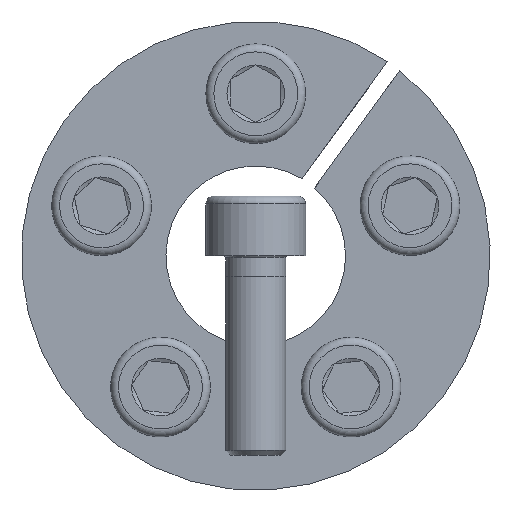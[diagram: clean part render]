
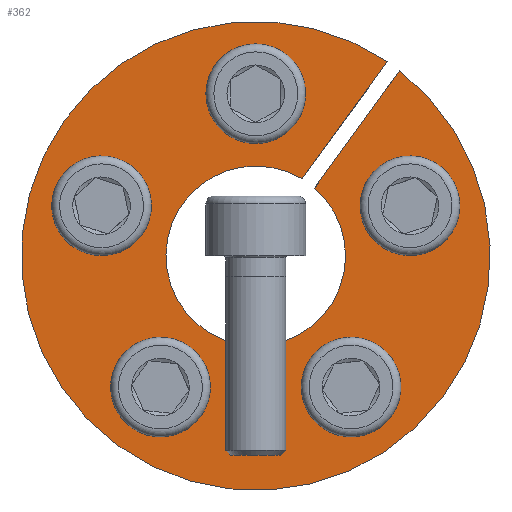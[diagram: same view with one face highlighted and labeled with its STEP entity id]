
A CAD part, front view. The second image highlights one B-rep face of the part: STEP entity #362.
In plain terms, the highlighted planar face has unit normal (0, -1, 0).
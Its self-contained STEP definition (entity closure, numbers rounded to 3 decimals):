
#362 = ADVANCED_FACE( '', ( #559, #560, #561, #562, #563, #564 ), #565, .F. );
#559 = FACE_BOUND( '', #693, .T. );
#560 = FACE_BOUND( '', #694, .T. );
#561 = FACE_OUTER_BOUND( '', #695, .T. );
#562 = FACE_BOUND( '', #696, .T. );
#563 = FACE_BOUND( '', #697, .T. );
#564 = FACE_BOUND( '', #698, .T. );
#565 = PLANE( '', #699 );
#693 = EDGE_LOOP( '', ( #876 ) );
#694 = EDGE_LOOP( '', ( #877 ) );
#695 = EDGE_LOOP( '', ( #878, #879, #880, #881 ) );
#696 = EDGE_LOOP( '', ( #882 ) );
#697 = EDGE_LOOP( '', ( #883 ) );
#698 = EDGE_LOOP( '', ( #884 ) );
#699 = AXIS2_PLACEMENT_3D( '', #885, #886, #887 );
#876 = ORIENTED_EDGE( '', *, *, #1168, .T. );
#877 = ORIENTED_EDGE( '', *, *, #1169, .T. );
#878 = ORIENTED_EDGE( '', *, *, #1166, .F. );
#879 = ORIENTED_EDGE( '', *, *, #1162, .F. );
#880 = ORIENTED_EDGE( '', *, *, #1170, .T. );
#881 = ORIENTED_EDGE( '', *, *, #1171, .F. );
#882 = ORIENTED_EDGE( '', *, *, #1172, .T. );
#883 = ORIENTED_EDGE( '', *, *, #1173, .T. );
#884 = ORIENTED_EDGE( '', *, *, #1174, .T. );
#885 = CARTESIAN_POINT( '', ( 0., 0., 23.5 ) );
#886 = DIRECTION( '', ( 0., 1., 0. ) );
#887 = DIRECTION( '', ( 0., 0., 1. ) );
#1162 = EDGE_CURVE( '', #1285, #1287, #1288, .T. );
#1166 = EDGE_CURVE( '', #1287, #1294, #1295, .T. );
#1168 = EDGE_CURVE( '', #1297, #1297, #1298, .T. );
#1169 = EDGE_CURVE( '', #1299, #1299, #1300, .T. );
#1170 = EDGE_CURVE( '', #1285, #1301, #1302, .T. );
#1171 = EDGE_CURVE( '', #1294, #1301, #1303, .T. );
#1172 = EDGE_CURVE( '', #1304, #1304, #1305, .T. );
#1173 = EDGE_CURVE( '', #1306, #1306, #1307, .T. );
#1174 = EDGE_CURVE( '', #1308, #1308, #1309, .T. );
#1285 = VERTEX_POINT( '', #1389 );
#1287 = VERTEX_POINT( '', #1392 );
#1288 = LINE( '', #1393, #1394 );
#1294 = VERTEX_POINT( '', #1402 );
#1295 = CIRCLE( '', #1403, 9. );
#1297 = VERTEX_POINT( '', #1406 );
#1298 = CIRCLE( '', #1407, 3. );
#1299 = VERTEX_POINT( '', #1408 );
#1300 = CIRCLE( '', #1409, 3. );
#1301 = VERTEX_POINT( '', #1410 );
#1302 = CIRCLE( '', #1411, 23.5 );
#1303 = LINE( '', #1412, #1413 );
#1304 = VERTEX_POINT( '', #1414 );
#1305 = CIRCLE( '', #1415, 3. );
#1306 = VERTEX_POINT( '', #1416 );
#1307 = CIRCLE( '', #1417, 3. );
#1308 = VERTEX_POINT( '', #1418 );
#1309 = CIRCLE( '', #1419, 3. );
#1389 = CARTESIAN_POINT( '', ( 13.182, 0., 19.455 ) );
#1392 = CARTESIAN_POINT( '', ( 4.647, 0., 7.707 ) );
#1393 = CARTESIAN_POINT( '', ( 13.19, 0., 19.465 ) );
#1394 = VECTOR( '', #1488, 1000. );
#1402 = CARTESIAN_POINT( '', ( 5.894, 0., 6.802 ) );
#1403 = AXIS2_PLACEMENT_3D( '', #1494, #1495, #1496 );
#1406 = CARTESIAN_POINT( '', ( -11.979, 0., -11.383 ) );
#1407 = AXIS2_PLACEMENT_3D( '', #1498, #1499, #1500 );
#1408 = CARTESIAN_POINT( '', ( 16.382, 0., 2.168 ) );
#1409 = AXIS2_PLACEMENT_3D( '', #1501, #1502, #1503 );
#1410 = CARTESIAN_POINT( '', ( 14.429, 0., 18.549 ) );
#1411 = AXIS2_PLACEMENT_3D( '', #1504, #1505, #1506 );
#1412 = CARTESIAN_POINT( '', ( 5.894, 0., 6.802 ) );
#1413 = VECTOR( '', #1507, 1000. );
#1414 = CARTESIAN_POINT( '', ( 3., 0., 16.25 ) );
#1415 = AXIS2_PLACEMENT_3D( '', #1508, #1509, #1510 );
#1416 = CARTESIAN_POINT( '', ( 7.124, 0., -14.91 ) );
#1417 = AXIS2_PLACEMENT_3D( '', #1511, #1512, #1513 );
#1418 = CARTESIAN_POINT( '', ( -14.528, 0., 7.875 ) );
#1419 = AXIS2_PLACEMENT_3D( '', #1514, #1515, #1516 );
#1488 = DIRECTION( '', ( -0.588, 0., -0.809 ) );
#1494 = CARTESIAN_POINT( '', ( 0., 0., 0. ) );
#1495 = DIRECTION( '', ( 0., -1., 0. ) );
#1496 = DIRECTION( '', ( 0., 0., -1. ) );
#1498 = CARTESIAN_POINT( '', ( -9.552, 0., -13.147 ) );
#1499 = DIRECTION( '', ( 0., 1., 0. ) );
#1500 = DIRECTION( '', ( -0.809, 0., 0.588 ) );
#1501 = CARTESIAN_POINT( '', ( 15.455, 0., 5.022 ) );
#1502 = DIRECTION( '', ( 0., 1., 0. ) );
#1503 = DIRECTION( '', ( 0.309, 0., -0.951 ) );
#1504 = CARTESIAN_POINT( '', ( 0., 0., 0. ) );
#1505 = DIRECTION( '', ( 0., -1., 0. ) );
#1506 = DIRECTION( '', ( 0., 0., -1. ) );
#1507 = DIRECTION( '', ( 0.588, 0., 0.809 ) );
#1508 = CARTESIAN_POINT( '', ( 0., 0., 16.25 ) );
#1509 = DIRECTION( '', ( 0., 1., 0. ) );
#1510 = DIRECTION( '', ( 1., 0., 0. ) );
#1511 = CARTESIAN_POINT( '', ( 9.552, 0., -13.147 ) );
#1512 = DIRECTION( '', ( 0., 1., 0. ) );
#1513 = DIRECTION( '', ( -0.809, 0., -0.588 ) );
#1514 = CARTESIAN_POINT( '', ( -15.455, 0., 5.022 ) );
#1515 = DIRECTION( '', ( 0., 1., 0. ) );
#1516 = DIRECTION( '', ( 0.309, 0., 0.951 ) );
